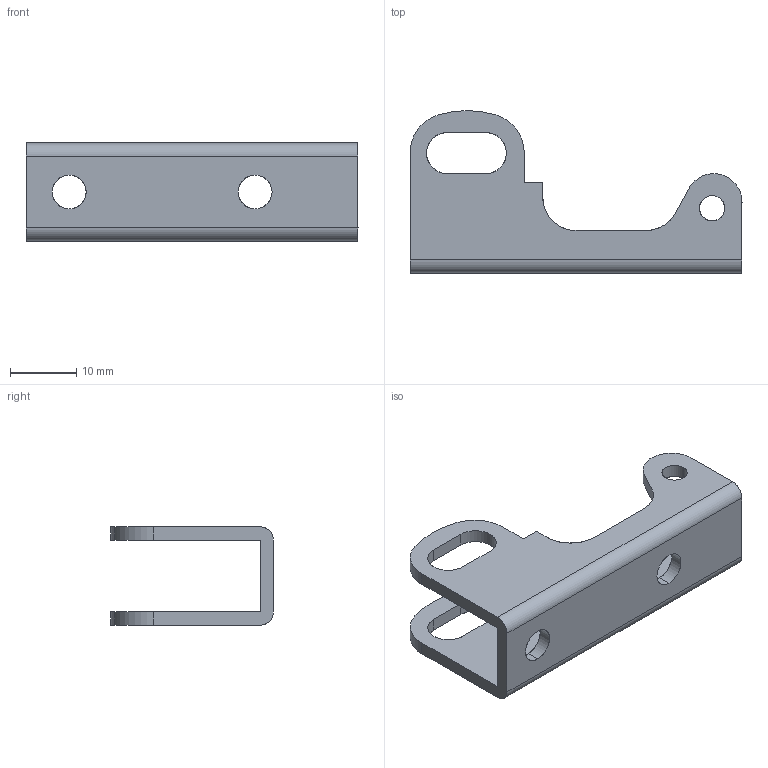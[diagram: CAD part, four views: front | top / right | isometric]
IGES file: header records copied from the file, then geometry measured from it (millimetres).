
Start section: SolidWorks IGES FILE using analytic representation for surfaces
Global section: file name: C:\Documents and Settings\brechard\Bureau\GE 576\546.020.00.IGS; native system: SolidWorks 2001Plus by SolidWorks Corporation; preprocessor: Version 5.3; author: brechard; date: 050126.095844; units: millimetre
Bounding box: 50 x 24.5 x 14.8 mm (x, y, z)
Surface area: 4136.2 mm2 (no closed solid volume)
Topology: 0 solids, 0 shells, 50 faces, 856 edges, 856 vertices
Faces by surface type: revolution 28, bspline 22
